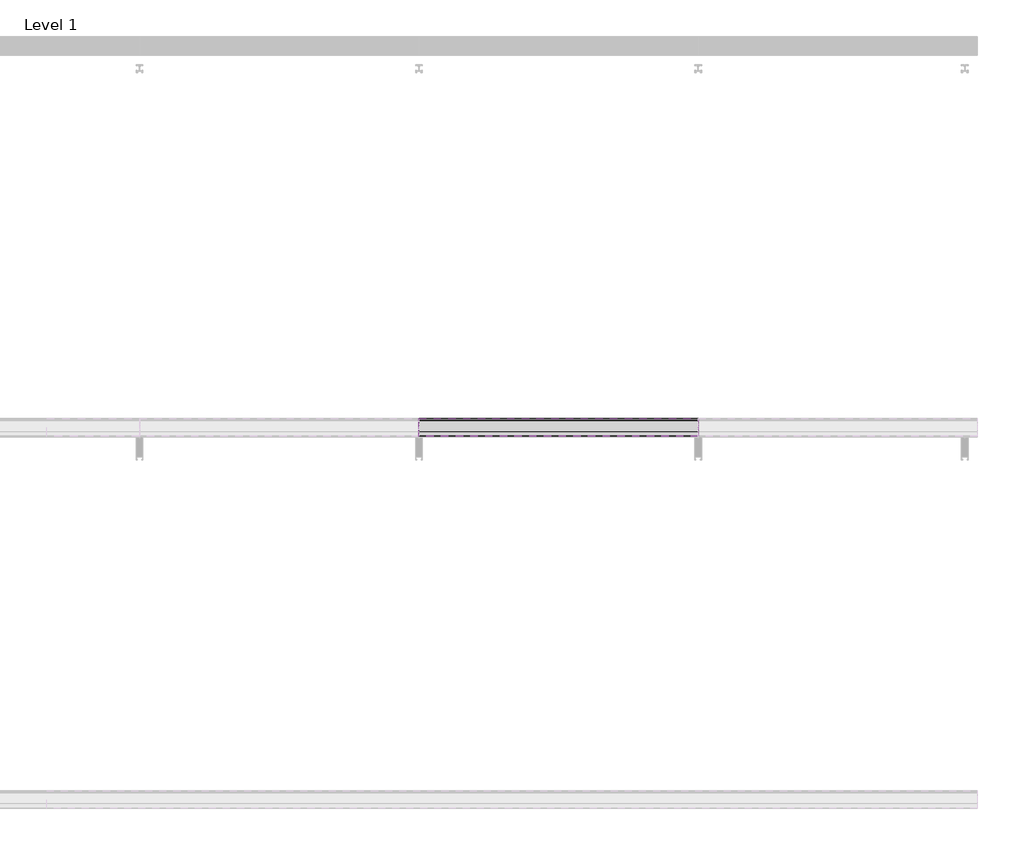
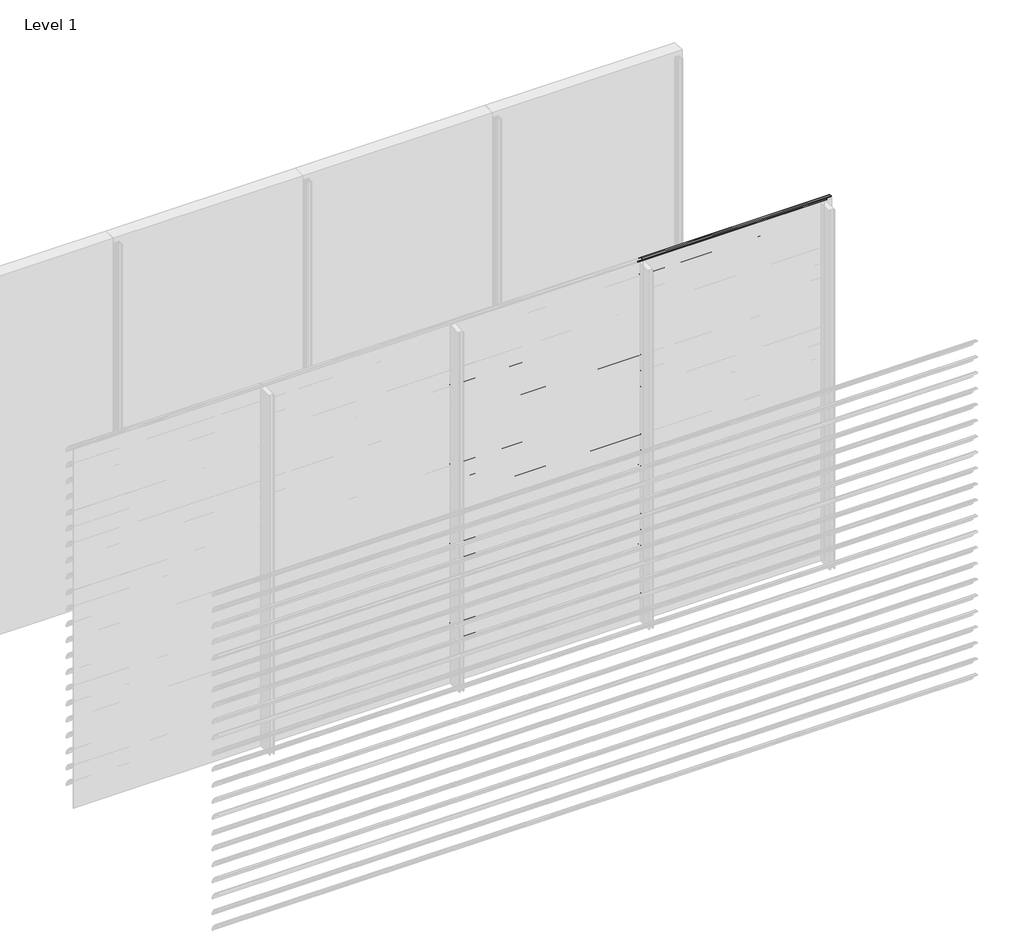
# One storey, part 12 of 57: 20 proxies.
"""IFC4 building model written with IfcOpenShell, lengths in millimetres."""

from ifc_helpers import new_model, si_unit, point, frame, frame_2d, origin, place, context, project, spatial, polyline, circle_curve, trimmed, segment, composite_curve, outline, extrude, element, save

model = new_model("IFC4")

# Units and contexts
model_context = context("Model", 3, world=origin())
ifc_project = project(units=[si_unit("LENGTHUNIT", "METRE", prefix="MILLI")], contexts=[model_context])

# Site, building, storey
site = spatial("IfcSite", under=ifc_project)
building = spatial("IfcBuilding", under=site)
storey = spatial("IfcBuildingStorey", under=building, Name="Level 1", Elevation=0.0)

# Proxies
placement = place(None, origin())
element("IfcBuildingElementProxy", 1, Name="Wall Sweeps", at=placement, inside=storey, context=model_context, shape_type="SweptSolid", body=[
    extrude(outline(composite_curve([segment(trimmed(circle_curve(frame_2d((-47993.7822526, 2484.4913792)), 4.2177474), [point((-47989.6985606, 2485.5462976))], [point((-47993.7822526, 2488.7091266))], False, "CARTESIAN"), True, "CONTINUOUS"), segment(trimmed(circle_curve(frame_2d((-48018.7150834, 2386.2536312)), 105.4456002), [point((-47993.7822526, 2488.7091266))], [point((-47971.7914298, 2480.6832099))], False, "CARTESIAN"), True, "CONTINUOUS"), segment(trimmed(circle_curve(frame_2d((-48061.7199745, 2332.0352476)), 173.7335887), [point((-47971.7914298, 2480.6832099))], [point((-47913.0720121, 2421.9637922))], False, "CARTESIAN"), True, "CONTINUOUS"), segment(trimmed(circle_curve(frame_2d((-48004.9297178, 2370.1860314)), 105.4456002), [point((-47913.0720121, 2421.9637922))], [point((-47903.6249616, 2399.4455765))], False, "CARTESIAN"), True, "CONTINUOUS"), segment(trimmed(circle_curve(frame_2d((-47907.809737, 2398.3307305)), 4.3307305), [point((-47903.6249616, 2399.4455765))], [point((-47909.0769196, 2394.189538))], False, "CARTESIAN"), True, "CONTINUOUS"), segment(polyline([(-47909.0769196, 2394.189538), (-47934.7401984, 2418.9722783)]), True, "CONTINUOUS"), segment(trimmed(circle_curve(frame_2d((-47931.3879574, 2421.2977626)), 4.079877), [point((-47934.7401984, 2418.9722783))], [point((-47930.7310597, 2425.3244091))], False, "CARTESIAN"), True, "CONTINUOUS"), segment(trimmed(circle_curve(frame_2d((-48014.6665585, 2403.2544323)), 86.7885467), [point((-47930.7310597, 2425.3244091))], [point((-47942.3028351, 2451.1683485))], True, "CARTESIAN"), True, "CONTINUOUS"), segment(polyline([(-47942.3028351, 2451.1683485), (-47940.7230099, 2453.9046861)]), True, "CONTINUOUS"), segment(trimmed(circle_curve(frame_2d((-48061.7199745, 2332.0352476)), 171.7335887), [point((-47940.7230099, 2453.9046861))], [point((-47972.7555872, 2478.9289618))], True, "CARTESIAN"), True, "CONTINUOUS"), segment(trimmed(circle_curve(frame_2d((-48018.7150834, 2386.2536312)), 103.4456002), [point((-47972.7555872, 2478.9289618))], [point((-47989.6985606, 2485.5462976))], True, "CARTESIAN"), True, "CONTINUOUS")], self_intersect=False)), frame((3000.0, 0.0, 0.0), z_axis=(1.0, 0.0, 0.0), x_axis=(0.0, 1.0, 0.0)), (0.0, 0.0, 1.0), 1500.0),
])
element("IfcBuildingElementProxy", 2, Name="Wall Sweeps", at=placement, inside=storey, context=model_context, shape_type="SweptSolid", body=[
    extrude(outline(composite_curve([segment(trimmed(circle_curve(frame_2d((-47993.7822526, 2351.4913792)), 4.2177474), [point((-47989.6985606, 2352.5462976))], [point((-47993.7822526, 2355.7091266))], False, "CARTESIAN"), True, "CONTINUOUS"), segment(trimmed(circle_curve(frame_2d((-48018.7150834, 2253.2536312)), 105.4456002), [point((-47993.7822526, 2355.7091266))], [point((-47971.7914298, 2347.6832099))], False, "CARTESIAN"), True, "CONTINUOUS"), segment(trimmed(circle_curve(frame_2d((-48061.7199745, 2199.0352476)), 173.7335887), [point((-47971.7914298, 2347.6832099))], [point((-47913.0720121, 2288.9637922))], False, "CARTESIAN"), True, "CONTINUOUS"), segment(trimmed(circle_curve(frame_2d((-48004.9297178, 2237.1860314)), 105.4456002), [point((-47913.0720121, 2288.9637922))], [point((-47903.6249616, 2266.4455765))], False, "CARTESIAN"), True, "CONTINUOUS"), segment(trimmed(circle_curve(frame_2d((-47907.809737, 2265.3307305)), 4.3307305), [point((-47903.6249616, 2266.4455765))], [point((-47909.0769196, 2261.189538))], False, "CARTESIAN"), True, "CONTINUOUS"), segment(polyline([(-47909.0769196, 2261.189538), (-47934.7401984, 2285.9722783)]), True, "CONTINUOUS"), segment(trimmed(circle_curve(frame_2d((-47931.3879574, 2288.2977626)), 4.079877), [point((-47934.7401984, 2285.9722783))], [point((-47930.7310597, 2292.3244091))], False, "CARTESIAN"), True, "CONTINUOUS"), segment(trimmed(circle_curve(frame_2d((-48014.6665585, 2270.2544323)), 86.7885467), [point((-47930.7310597, 2292.3244091))], [point((-47942.3028351, 2318.1683485))], True, "CARTESIAN"), True, "CONTINUOUS"), segment(polyline([(-47942.3028351, 2318.1683485), (-47940.7230099, 2320.9046861)]), True, "CONTINUOUS"), segment(trimmed(circle_curve(frame_2d((-48061.7199745, 2199.0352476)), 171.7335887), [point((-47940.7230099, 2320.9046861))], [point((-47972.7555872, 2345.9289618))], True, "CARTESIAN"), True, "CONTINUOUS"), segment(trimmed(circle_curve(frame_2d((-48018.7150834, 2253.2536312)), 103.4456002), [point((-47972.7555872, 2345.9289618))], [point((-47989.6985606, 2352.5462976))], True, "CARTESIAN"), True, "CONTINUOUS")], self_intersect=False)), frame((3000.0, 0.0, 0.0), z_axis=(1.0, 0.0, 0.0), x_axis=(0.0, 1.0, 0.0)), (0.0, 0.0, 1.0), 1500.0),
])
element("IfcBuildingElementProxy", 3, Name="Wall Sweeps", at=placement, inside=storey, context=model_context, shape_type="SweptSolid", body=[
    extrude(outline(composite_curve([segment(trimmed(circle_curve(frame_2d((-47993.7822526, 2218.4913792)), 4.2177474), [point((-47989.6985606, 2219.5462976))], [point((-47993.7822526, 2222.7091266))], False, "CARTESIAN"), True, "CONTINUOUS"), segment(trimmed(circle_curve(frame_2d((-48018.7150834, 2120.2536312)), 105.4456002), [point((-47993.7822526, 2222.7091266))], [point((-47971.7914298, 2214.6832099))], False, "CARTESIAN"), True, "CONTINUOUS"), segment(trimmed(circle_curve(frame_2d((-48061.7199745, 2066.0352476)), 173.7335887), [point((-47971.7914298, 2214.6832099))], [point((-47913.0720121, 2155.9637922))], False, "CARTESIAN"), True, "CONTINUOUS"), segment(trimmed(circle_curve(frame_2d((-48004.9297178, 2104.1860314)), 105.4456002), [point((-47913.0720121, 2155.9637922))], [point((-47903.6249616, 2133.4455765))], False, "CARTESIAN"), True, "CONTINUOUS"), segment(trimmed(circle_curve(frame_2d((-47907.809737, 2132.3307305)), 4.3307305), [point((-47903.6249616, 2133.4455765))], [point((-47909.0769196, 2128.189538))], False, "CARTESIAN"), True, "CONTINUOUS"), segment(polyline([(-47909.0769196, 2128.189538), (-47934.7401984, 2152.9722783)]), True, "CONTINUOUS"), segment(trimmed(circle_curve(frame_2d((-47931.3879574, 2155.2977626)), 4.079877), [point((-47934.7401984, 2152.9722783))], [point((-47930.7310597, 2159.3244091))], False, "CARTESIAN"), True, "CONTINUOUS"), segment(trimmed(circle_curve(frame_2d((-48014.6665585, 2137.2544323)), 86.7885467), [point((-47930.7310597, 2159.3244091))], [point((-47942.3028351, 2185.1683485))], True, "CARTESIAN"), True, "CONTINUOUS"), segment(polyline([(-47942.3028351, 2185.1683485), (-47940.7230099, 2187.9046861)]), True, "CONTINUOUS"), segment(trimmed(circle_curve(frame_2d((-48061.7199745, 2066.0352476)), 171.7335887), [point((-47940.7230099, 2187.9046861))], [point((-47972.7555872, 2212.9289618))], True, "CARTESIAN"), True, "CONTINUOUS"), segment(trimmed(circle_curve(frame_2d((-48018.7150834, 2120.2536312)), 103.4456002), [point((-47972.7555872, 2212.9289618))], [point((-47989.6985606, 2219.5462976))], True, "CARTESIAN"), True, "CONTINUOUS")], self_intersect=False)), frame((3000.0, 0.0, 0.0), z_axis=(1.0, 0.0, 0.0), x_axis=(0.0, 1.0, 0.0)), (0.0, 0.0, 1.0), 1500.0),
])
element("IfcBuildingElementProxy", 4, Name="Wall Sweeps", at=placement, inside=storey, context=model_context, shape_type="SweptSolid", body=[
    extrude(outline(composite_curve([segment(trimmed(circle_curve(frame_2d((-47993.7822526, 2085.4913792)), 4.2177474), [point((-47989.6985606, 2086.5462976))], [point((-47993.7822526, 2089.7091266))], False, "CARTESIAN"), True, "CONTINUOUS"), segment(trimmed(circle_curve(frame_2d((-48018.7150834, 1987.2536312)), 105.4456002), [point((-47993.7822526, 2089.7091266))], [point((-47971.7914298, 2081.6832099))], False, "CARTESIAN"), True, "CONTINUOUS"), segment(trimmed(circle_curve(frame_2d((-48061.7199745, 1933.0352476)), 173.7335887), [point((-47971.7914298, 2081.6832099))], [point((-47913.0720121, 2022.9637922))], False, "CARTESIAN"), True, "CONTINUOUS"), segment(trimmed(circle_curve(frame_2d((-48004.9297178, 1971.1860314)), 105.4456002), [point((-47913.0720121, 2022.9637922))], [point((-47903.6249616, 2000.4455765))], False, "CARTESIAN"), True, "CONTINUOUS"), segment(trimmed(circle_curve(frame_2d((-47907.809737, 1999.3307305)), 4.3307305), [point((-47903.6249616, 2000.4455765))], [point((-47909.0769196, 1995.189538))], False, "CARTESIAN"), True, "CONTINUOUS"), segment(polyline([(-47909.0769196, 1995.189538), (-47934.7401984, 2019.9722783)]), True, "CONTINUOUS"), segment(trimmed(circle_curve(frame_2d((-47931.3879574, 2022.2977626)), 4.079877), [point((-47934.7401984, 2019.9722783))], [point((-47930.7310597, 2026.3244091))], False, "CARTESIAN"), True, "CONTINUOUS"), segment(trimmed(circle_curve(frame_2d((-48014.6665585, 2004.2544323)), 86.7885467), [point((-47930.7310597, 2026.3244091))], [point((-47942.3028351, 2052.1683485))], True, "CARTESIAN"), True, "CONTINUOUS"), segment(polyline([(-47942.3028351, 2052.1683485), (-47940.7230099, 2054.9046861)]), True, "CONTINUOUS"), segment(trimmed(circle_curve(frame_2d((-48061.7199745, 1933.0352476)), 171.7335887), [point((-47940.7230099, 2054.9046861))], [point((-47972.7555872, 2079.9289618))], True, "CARTESIAN"), True, "CONTINUOUS"), segment(trimmed(circle_curve(frame_2d((-48018.7150834, 1987.2536312)), 103.4456002), [point((-47972.7555872, 2079.9289618))], [point((-47989.6985606, 2086.5462976))], True, "CARTESIAN"), True, "CONTINUOUS")], self_intersect=False)), frame((3000.0, 0.0, 0.0), z_axis=(1.0, 0.0, 0.0), x_axis=(0.0, 1.0, 0.0)), (0.0, 0.0, 1.0), 1500.0),
])
element("IfcBuildingElementProxy", 5, Name="Wall Sweeps", at=placement, inside=storey, context=model_context, shape_type="SweptSolid", body=[
    extrude(outline(composite_curve([segment(trimmed(circle_curve(frame_2d((-47993.7822526, 1952.4913792)), 4.2177474), [point((-47989.6985606, 1953.5462976))], [point((-47993.7822526, 1956.7091266))], False, "CARTESIAN"), True, "CONTINUOUS"), segment(trimmed(circle_curve(frame_2d((-48018.7150834, 1854.2536312)), 105.4456002), [point((-47993.7822526, 1956.7091266))], [point((-47971.7914298, 1948.6832099))], False, "CARTESIAN"), True, "CONTINUOUS"), segment(trimmed(circle_curve(frame_2d((-48061.7199745, 1800.0352476)), 173.7335887), [point((-47971.7914298, 1948.6832099))], [point((-47913.0720121, 1889.9637922))], False, "CARTESIAN"), True, "CONTINUOUS"), segment(trimmed(circle_curve(frame_2d((-48004.9297178, 1838.1860314)), 105.4456002), [point((-47913.0720121, 1889.9637922))], [point((-47903.6249616, 1867.4455765))], False, "CARTESIAN"), True, "CONTINUOUS"), segment(trimmed(circle_curve(frame_2d((-47907.809737, 1866.3307305)), 4.3307305), [point((-47903.6249616, 1867.4455765))], [point((-47909.0769196, 1862.189538))], False, "CARTESIAN"), True, "CONTINUOUS"), segment(polyline([(-47909.0769196, 1862.189538), (-47934.7401984, 1886.9722783)]), True, "CONTINUOUS"), segment(trimmed(circle_curve(frame_2d((-47931.3879574, 1889.2977626)), 4.079877), [point((-47934.7401984, 1886.9722783))], [point((-47930.7310597, 1893.3244091))], False, "CARTESIAN"), True, "CONTINUOUS"), segment(trimmed(circle_curve(frame_2d((-48014.6665585, 1871.2544323)), 86.7885467), [point((-47930.7310597, 1893.3244091))], [point((-47942.3028351, 1919.1683485))], True, "CARTESIAN"), True, "CONTINUOUS"), segment(polyline([(-47942.3028351, 1919.1683485), (-47940.7230099, 1921.9046861)]), True, "CONTINUOUS"), segment(trimmed(circle_curve(frame_2d((-48061.7199745, 1800.0352476)), 171.7335887), [point((-47940.7230099, 1921.9046861))], [point((-47972.7555872, 1946.9289618))], True, "CARTESIAN"), True, "CONTINUOUS"), segment(trimmed(circle_curve(frame_2d((-48018.7150834, 1854.2536312)), 103.4456002), [point((-47972.7555872, 1946.9289618))], [point((-47989.6985606, 1953.5462976))], True, "CARTESIAN"), True, "CONTINUOUS")], self_intersect=False)), frame((3000.0, 0.0, 0.0), z_axis=(1.0, 0.0, 0.0), x_axis=(0.0, 1.0, 0.0)), (0.0, 0.0, 1.0), 1500.0),
])
element("IfcBuildingElementProxy", 6, Name="Wall Sweeps", at=placement, inside=storey, context=model_context, shape_type="SweptSolid", body=[
    extrude(outline(composite_curve([segment(trimmed(circle_curve(frame_2d((-47993.7822526, 1819.4913792)), 4.2177474), [point((-47989.6985606, 1820.5462976))], [point((-47993.7822526, 1823.7091266))], False, "CARTESIAN"), True, "CONTINUOUS"), segment(trimmed(circle_curve(frame_2d((-48018.7150834, 1721.2536312)), 105.4456002), [point((-47993.7822526, 1823.7091266))], [point((-47971.7914298, 1815.6832099))], False, "CARTESIAN"), True, "CONTINUOUS"), segment(trimmed(circle_curve(frame_2d((-48061.7199745, 1667.0352476)), 173.7335887), [point((-47971.7914298, 1815.6832099))], [point((-47913.0720121, 1756.9637922))], False, "CARTESIAN"), True, "CONTINUOUS"), segment(trimmed(circle_curve(frame_2d((-48004.9297178, 1705.1860314)), 105.4456002), [point((-47913.0720121, 1756.9637922))], [point((-47903.6249616, 1734.4455765))], False, "CARTESIAN"), True, "CONTINUOUS"), segment(trimmed(circle_curve(frame_2d((-47907.809737, 1733.3307305)), 4.3307305), [point((-47903.6249616, 1734.4455765))], [point((-47909.0769196, 1729.189538))], False, "CARTESIAN"), True, "CONTINUOUS"), segment(polyline([(-47909.0769196, 1729.189538), (-47934.7401984, 1753.9722783)]), True, "CONTINUOUS"), segment(trimmed(circle_curve(frame_2d((-47931.3879574, 1756.2977626)), 4.079877), [point((-47934.7401984, 1753.9722783))], [point((-47930.7310597, 1760.3244091))], False, "CARTESIAN"), True, "CONTINUOUS"), segment(trimmed(circle_curve(frame_2d((-48014.6665585, 1738.2544323)), 86.7885467), [point((-47930.7310597, 1760.3244091))], [point((-47942.3028351, 1786.1683485))], True, "CARTESIAN"), True, "CONTINUOUS"), segment(polyline([(-47942.3028351, 1786.1683485), (-47940.7230099, 1788.9046861)]), True, "CONTINUOUS"), segment(trimmed(circle_curve(frame_2d((-48061.7199745, 1667.0352476)), 171.7335887), [point((-47940.7230099, 1788.9046861))], [point((-47972.7555872, 1813.9289618))], True, "CARTESIAN"), True, "CONTINUOUS"), segment(trimmed(circle_curve(frame_2d((-48018.7150834, 1721.2536312)), 103.4456002), [point((-47972.7555872, 1813.9289618))], [point((-47989.6985606, 1820.5462976))], True, "CARTESIAN"), True, "CONTINUOUS")], self_intersect=False)), frame((3000.0, 0.0, 0.0), z_axis=(1.0, 0.0, 0.0), x_axis=(0.0, 1.0, 0.0)), (0.0, 0.0, 1.0), 1500.0),
])
element("IfcBuildingElementProxy", 7, Name="Wall Sweeps", at=placement, inside=storey, context=model_context, shape_type="SweptSolid", body=[
    extrude(outline(composite_curve([segment(trimmed(circle_curve(frame_2d((-47993.7822526, 1686.4913792)), 4.2177474), [point((-47989.6985606, 1687.5462976))], [point((-47993.7822526, 1690.7091266))], False, "CARTESIAN"), True, "CONTINUOUS"), segment(trimmed(circle_curve(frame_2d((-48018.7150834, 1588.2536312)), 105.4456002), [point((-47993.7822526, 1690.7091266))], [point((-47971.7914298, 1682.6832099))], False, "CARTESIAN"), True, "CONTINUOUS"), segment(trimmed(circle_curve(frame_2d((-48061.7199745, 1534.0352476)), 173.7335887), [point((-47971.7914298, 1682.6832099))], [point((-47913.0720121, 1623.9637922))], False, "CARTESIAN"), True, "CONTINUOUS"), segment(trimmed(circle_curve(frame_2d((-48004.9297178, 1572.1860314)), 105.4456002), [point((-47913.0720121, 1623.9637922))], [point((-47903.6249616, 1601.4455765))], False, "CARTESIAN"), True, "CONTINUOUS"), segment(trimmed(circle_curve(frame_2d((-47907.809737, 1600.3307305)), 4.3307305), [point((-47903.6249616, 1601.4455765))], [point((-47909.0769196, 1596.189538))], False, "CARTESIAN"), True, "CONTINUOUS"), segment(polyline([(-47909.0769196, 1596.189538), (-47934.7401984, 1620.9722783)]), True, "CONTINUOUS"), segment(trimmed(circle_curve(frame_2d((-47931.3879574, 1623.2977626)), 4.079877), [point((-47934.7401984, 1620.9722783))], [point((-47930.7310597, 1627.3244091))], False, "CARTESIAN"), True, "CONTINUOUS"), segment(trimmed(circle_curve(frame_2d((-48014.6665585, 1605.2544323)), 86.7885467), [point((-47930.7310597, 1627.3244091))], [point((-47942.3028351, 1653.1683485))], True, "CARTESIAN"), True, "CONTINUOUS"), segment(polyline([(-47942.3028351, 1653.1683485), (-47940.7230099, 1655.9046861)]), True, "CONTINUOUS"), segment(trimmed(circle_curve(frame_2d((-48061.7199745, 1534.0352476)), 171.7335887), [point((-47940.7230099, 1655.9046861))], [point((-47972.7555872, 1680.9289618))], True, "CARTESIAN"), True, "CONTINUOUS"), segment(trimmed(circle_curve(frame_2d((-48018.7150834, 1588.2536312)), 103.4456002), [point((-47972.7555872, 1680.9289618))], [point((-47989.6985606, 1687.5462976))], True, "CARTESIAN"), True, "CONTINUOUS")], self_intersect=False)), frame((3000.0, 0.0, 0.0), z_axis=(1.0, 0.0, 0.0), x_axis=(0.0, 1.0, 0.0)), (0.0, 0.0, 1.0), 1500.0),
])
element("IfcBuildingElementProxy", 8, Name="Wall Sweeps", at=placement, inside=storey, context=model_context, shape_type="SweptSolid", body=[
    extrude(outline(composite_curve([segment(trimmed(circle_curve(frame_2d((-47993.7822526, 1553.4913792)), 4.2177474), [point((-47989.6985606, 1554.5462976))], [point((-47993.7822526, 1557.7091266))], False, "CARTESIAN"), True, "CONTINUOUS"), segment(trimmed(circle_curve(frame_2d((-48018.7150834, 1455.2536312)), 105.4456002), [point((-47993.7822526, 1557.7091266))], [point((-47971.7914298, 1549.6832099))], False, "CARTESIAN"), True, "CONTINUOUS"), segment(trimmed(circle_curve(frame_2d((-48061.7199745, 1401.0352476)), 173.7335887), [point((-47971.7914298, 1549.6832099))], [point((-47913.0720121, 1490.9637922))], False, "CARTESIAN"), True, "CONTINUOUS"), segment(trimmed(circle_curve(frame_2d((-48004.9297178, 1439.1860314)), 105.4456002), [point((-47913.0720121, 1490.9637922))], [point((-47903.6249616, 1468.4455765))], False, "CARTESIAN"), True, "CONTINUOUS"), segment(trimmed(circle_curve(frame_2d((-47907.809737, 1467.3307305)), 4.3307305), [point((-47903.6249616, 1468.4455765))], [point((-47909.0769196, 1463.189538))], False, "CARTESIAN"), True, "CONTINUOUS"), segment(polyline([(-47909.0769196, 1463.189538), (-47934.7401984, 1487.9722783)]), True, "CONTINUOUS"), segment(trimmed(circle_curve(frame_2d((-47931.3879574, 1490.2977626)), 4.079877), [point((-47934.7401984, 1487.9722783))], [point((-47930.7310597, 1494.3244091))], False, "CARTESIAN"), True, "CONTINUOUS"), segment(trimmed(circle_curve(frame_2d((-48014.6665585, 1472.2544323)), 86.7885467), [point((-47930.7310597, 1494.3244091))], [point((-47942.3028351, 1520.1683485))], True, "CARTESIAN"), True, "CONTINUOUS"), segment(polyline([(-47942.3028351, 1520.1683485), (-47940.7230099, 1522.9046861)]), True, "CONTINUOUS"), segment(trimmed(circle_curve(frame_2d((-48061.7199745, 1401.0352476)), 171.7335887), [point((-47940.7230099, 1522.9046861))], [point((-47972.7555872, 1547.9289618))], True, "CARTESIAN"), True, "CONTINUOUS"), segment(trimmed(circle_curve(frame_2d((-48018.7150834, 1455.2536312)), 103.4456002), [point((-47972.7555872, 1547.9289618))], [point((-47989.6985606, 1554.5462976))], True, "CARTESIAN"), True, "CONTINUOUS")], self_intersect=False)), frame((3000.0, 0.0, 0.0), z_axis=(1.0, 0.0, 0.0), x_axis=(0.0, 1.0, 0.0)), (0.0, 0.0, 1.0), 1500.0),
])
element("IfcBuildingElementProxy", 9, Name="Wall Sweeps", at=placement, inside=storey, context=model_context, shape_type="SweptSolid", body=[
    extrude(outline(composite_curve([segment(trimmed(circle_curve(frame_2d((-47993.7822526, 1420.4913792)), 4.2177474), [point((-47989.6985606, 1421.5462976))], [point((-47993.7822526, 1424.7091266))], False, "CARTESIAN"), True, "CONTINUOUS"), segment(trimmed(circle_curve(frame_2d((-48018.7150834, 1322.2536312)), 105.4456002), [point((-47993.7822526, 1424.7091266))], [point((-47971.7914298, 1416.6832099))], False, "CARTESIAN"), True, "CONTINUOUS"), segment(trimmed(circle_curve(frame_2d((-48061.7199745, 1268.0352476)), 173.7335887), [point((-47971.7914298, 1416.6832099))], [point((-47913.0720121, 1357.9637922))], False, "CARTESIAN"), True, "CONTINUOUS"), segment(trimmed(circle_curve(frame_2d((-48004.9297178, 1306.1860314)), 105.4456002), [point((-47913.0720121, 1357.9637922))], [point((-47903.6249616, 1335.4455765))], False, "CARTESIAN"), True, "CONTINUOUS"), segment(trimmed(circle_curve(frame_2d((-47907.809737, 1334.3307305)), 4.3307305), [point((-47903.6249616, 1335.4455765))], [point((-47909.0769196, 1330.189538))], False, "CARTESIAN"), True, "CONTINUOUS"), segment(polyline([(-47909.0769196, 1330.189538), (-47934.7401984, 1354.9722783)]), True, "CONTINUOUS"), segment(trimmed(circle_curve(frame_2d((-47931.3879574, 1357.2977626)), 4.079877), [point((-47934.7401984, 1354.9722783))], [point((-47930.7310597, 1361.3244091))], False, "CARTESIAN"), True, "CONTINUOUS"), segment(trimmed(circle_curve(frame_2d((-48014.6665585, 1339.2544323)), 86.7885467), [point((-47930.7310597, 1361.3244091))], [point((-47942.3028351, 1387.1683485))], True, "CARTESIAN"), True, "CONTINUOUS"), segment(polyline([(-47942.3028351, 1387.1683485), (-47940.7230099, 1389.9046861)]), True, "CONTINUOUS"), segment(trimmed(circle_curve(frame_2d((-48061.7199745, 1268.0352476)), 171.7335887), [point((-47940.7230099, 1389.9046861))], [point((-47972.7555872, 1414.9289618))], True, "CARTESIAN"), True, "CONTINUOUS"), segment(trimmed(circle_curve(frame_2d((-48018.7150834, 1322.2536312)), 103.4456002), [point((-47972.7555872, 1414.9289618))], [point((-47989.6985606, 1421.5462976))], True, "CARTESIAN"), True, "CONTINUOUS")], self_intersect=False)), frame((3000.0, 0.0, 0.0), z_axis=(1.0, 0.0, 0.0), x_axis=(0.0, 1.0, 0.0)), (0.0, 0.0, 1.0), 1500.0),
])
element("IfcBuildingElementProxy", 10, Name="Wall Sweeps", at=placement, inside=storey, context=model_context, shape_type="SweptSolid", body=[
    extrude(outline(composite_curve([segment(trimmed(circle_curve(frame_2d((-47993.7822526, 1287.4913792)), 4.2177474), [point((-47989.6985606, 1288.5462976))], [point((-47993.7822526, 1291.7091266))], False, "CARTESIAN"), True, "CONTINUOUS"), segment(trimmed(circle_curve(frame_2d((-48018.7150834, 1189.2536312)), 105.4456002), [point((-47993.7822526, 1291.7091266))], [point((-47971.7914298, 1283.6832099))], False, "CARTESIAN"), True, "CONTINUOUS"), segment(trimmed(circle_curve(frame_2d((-48061.7199745, 1135.0352476)), 173.7335887), [point((-47971.7914298, 1283.6832099))], [point((-47913.0720121, 1224.9637922))], False, "CARTESIAN"), True, "CONTINUOUS"), segment(trimmed(circle_curve(frame_2d((-48004.9297178, 1173.1860314)), 105.4456002), [point((-47913.0720121, 1224.9637922))], [point((-47903.6249616, 1202.4455765))], False, "CARTESIAN"), True, "CONTINUOUS"), segment(trimmed(circle_curve(frame_2d((-47907.809737, 1201.3307305)), 4.3307305), [point((-47903.6249616, 1202.4455765))], [point((-47909.0769196, 1197.189538))], False, "CARTESIAN"), True, "CONTINUOUS"), segment(polyline([(-47909.0769196, 1197.189538), (-47934.7401984, 1221.9722783)]), True, "CONTINUOUS"), segment(trimmed(circle_curve(frame_2d((-47931.3879574, 1224.2977626)), 4.079877), [point((-47934.7401984, 1221.9722783))], [point((-47930.7310597, 1228.3244091))], False, "CARTESIAN"), True, "CONTINUOUS"), segment(trimmed(circle_curve(frame_2d((-48014.6665585, 1206.2544323)), 86.7885467), [point((-47930.7310597, 1228.3244091))], [point((-47942.3028351, 1254.1683485))], True, "CARTESIAN"), True, "CONTINUOUS"), segment(polyline([(-47942.3028351, 1254.1683485), (-47940.7230099, 1256.9046861)]), True, "CONTINUOUS"), segment(trimmed(circle_curve(frame_2d((-48061.7199745, 1135.0352476)), 171.7335887), [point((-47940.7230099, 1256.9046861))], [point((-47972.7555872, 1281.9289618))], True, "CARTESIAN"), True, "CONTINUOUS"), segment(trimmed(circle_curve(frame_2d((-48018.7150834, 1189.2536312)), 103.4456002), [point((-47972.7555872, 1281.9289618))], [point((-47989.6985606, 1288.5462976))], True, "CARTESIAN"), True, "CONTINUOUS")], self_intersect=False)), frame((3000.0, 0.0, 0.0), z_axis=(1.0, 0.0, 0.0), x_axis=(0.0, 1.0, 0.0)), (0.0, 0.0, 1.0), 1500.0),
])
element("IfcBuildingElementProxy", 11, Name="Wall Sweeps", at=placement, inside=storey, context=model_context, shape_type="SweptSolid", body=[
    extrude(outline(composite_curve([segment(trimmed(circle_curve(frame_2d((-47993.7822526, 1154.4913792)), 4.2177474), [point((-47989.6985606, 1155.5462976))], [point((-47993.7822526, 1158.7091266))], False, "CARTESIAN"), True, "CONTINUOUS"), segment(trimmed(circle_curve(frame_2d((-48018.7150834, 1056.2536312)), 105.4456002), [point((-47993.7822526, 1158.7091266))], [point((-47971.7914298, 1150.6832099))], False, "CARTESIAN"), True, "CONTINUOUS"), segment(trimmed(circle_curve(frame_2d((-48061.7199745, 1002.0352476)), 173.7335887), [point((-47971.7914298, 1150.6832099))], [point((-47913.0720121, 1091.9637922))], False, "CARTESIAN"), True, "CONTINUOUS"), segment(trimmed(circle_curve(frame_2d((-48004.9297178, 1040.1860314)), 105.4456002), [point((-47913.0720121, 1091.9637922))], [point((-47903.6249616, 1069.4455765))], False, "CARTESIAN"), True, "CONTINUOUS"), segment(trimmed(circle_curve(frame_2d((-47907.809737, 1068.3307305)), 4.3307305), [point((-47903.6249616, 1069.4455765))], [point((-47909.0769196, 1064.189538))], False, "CARTESIAN"), True, "CONTINUOUS"), segment(polyline([(-47909.0769196, 1064.189538), (-47934.7401984, 1088.9722783)]), True, "CONTINUOUS"), segment(trimmed(circle_curve(frame_2d((-47931.3879574, 1091.2977626)), 4.079877), [point((-47934.7401984, 1088.9722783))], [point((-47930.7310597, 1095.3244091))], False, "CARTESIAN"), True, "CONTINUOUS"), segment(trimmed(circle_curve(frame_2d((-48014.6665585, 1073.2544323)), 86.7885467), [point((-47930.7310597, 1095.3244091))], [point((-47942.3028351, 1121.1683485))], True, "CARTESIAN"), True, "CONTINUOUS"), segment(polyline([(-47942.3028351, 1121.1683485), (-47940.7230099, 1123.9046861)]), True, "CONTINUOUS"), segment(trimmed(circle_curve(frame_2d((-48061.7199745, 1002.0352476)), 171.7335887), [point((-47940.7230099, 1123.9046861))], [point((-47972.7555872, 1148.9289618))], True, "CARTESIAN"), True, "CONTINUOUS"), segment(trimmed(circle_curve(frame_2d((-48018.7150834, 1056.2536312)), 103.4456002), [point((-47972.7555872, 1148.9289618))], [point((-47989.6985606, 1155.5462976))], True, "CARTESIAN"), True, "CONTINUOUS")], self_intersect=False)), frame((3000.0, 0.0, 0.0), z_axis=(1.0, 0.0, 0.0), x_axis=(0.0, 1.0, 0.0)), (0.0, 0.0, 1.0), 1500.0),
])
element("IfcBuildingElementProxy", 12, Name="Wall Sweeps", at=placement, inside=storey, context=model_context, shape_type="SweptSolid", body=[
    extrude(outline(composite_curve([segment(trimmed(circle_curve(frame_2d((-47993.7822526, 1021.4913792)), 4.2177474), [point((-47989.6985606, 1022.5462976))], [point((-47993.7822526, 1025.7091266))], False, "CARTESIAN"), True, "CONTINUOUS"), segment(trimmed(circle_curve(frame_2d((-48018.7150834, 923.2536312)), 105.4456002), [point((-47993.7822526, 1025.7091266))], [point((-47971.7914298, 1017.6832099))], False, "CARTESIAN"), True, "CONTINUOUS"), segment(trimmed(circle_curve(frame_2d((-48061.7199745, 869.0352476)), 173.7335887), [point((-47971.7914298, 1017.6832099))], [point((-47913.0720121, 958.9637922))], False, "CARTESIAN"), True, "CONTINUOUS"), segment(trimmed(circle_curve(frame_2d((-48004.9297178, 907.1860314)), 105.4456002), [point((-47913.0720121, 958.9637922))], [point((-47903.6249616, 936.4455765))], False, "CARTESIAN"), True, "CONTINUOUS"), segment(trimmed(circle_curve(frame_2d((-47907.809737, 935.3307305)), 4.3307305), [point((-47903.6249616, 936.4455765))], [point((-47909.0769196, 931.189538))], False, "CARTESIAN"), True, "CONTINUOUS"), segment(polyline([(-47909.0769196, 931.189538), (-47934.7401984, 955.9722783)]), True, "CONTINUOUS"), segment(trimmed(circle_curve(frame_2d((-47931.3879574, 958.2977626)), 4.079877), [point((-47934.7401984, 955.9722783))], [point((-47930.7310597, 962.3244091))], False, "CARTESIAN"), True, "CONTINUOUS"), segment(trimmed(circle_curve(frame_2d((-48014.6665585, 940.2544323)), 86.7885467), [point((-47930.7310597, 962.3244091))], [point((-47942.3028351, 988.1683485))], True, "CARTESIAN"), True, "CONTINUOUS"), segment(polyline([(-47942.3028351, 988.1683485), (-47940.7230099, 990.9046861)]), True, "CONTINUOUS"), segment(trimmed(circle_curve(frame_2d((-48061.7199745, 869.0352476)), 171.7335887), [point((-47940.7230099, 990.9046861))], [point((-47972.7555872, 1015.9289618))], True, "CARTESIAN"), True, "CONTINUOUS"), segment(trimmed(circle_curve(frame_2d((-48018.7150834, 923.2536312)), 103.4456002), [point((-47972.7555872, 1015.9289618))], [point((-47989.6985606, 1022.5462976))], True, "CARTESIAN"), True, "CONTINUOUS")], self_intersect=False)), frame((3000.0, 0.0, 0.0), z_axis=(1.0, 0.0, 0.0), x_axis=(0.0, 1.0, 0.0)), (0.0, 0.0, 1.0), 1500.0),
])
element("IfcBuildingElementProxy", 13, Name="Wall Sweeps", at=placement, inside=storey, context=model_context, shape_type="SweptSolid", body=[
    extrude(outline(composite_curve([segment(trimmed(circle_curve(frame_2d((-47993.7822526, 888.4913792)), 4.2177474), [point((-47989.6985606, 889.5462976))], [point((-47993.7822526, 892.7091266))], False, "CARTESIAN"), True, "CONTINUOUS"), segment(trimmed(circle_curve(frame_2d((-48018.7150834, 790.2536312)), 105.4456002), [point((-47993.7822526, 892.7091266))], [point((-47971.7914298, 884.6832099))], False, "CARTESIAN"), True, "CONTINUOUS"), segment(trimmed(circle_curve(frame_2d((-48061.7199745, 736.0352476)), 173.7335887), [point((-47971.7914298, 884.6832099))], [point((-47913.0720121, 825.9637922))], False, "CARTESIAN"), True, "CONTINUOUS"), segment(trimmed(circle_curve(frame_2d((-48004.9297178, 774.1860314)), 105.4456002), [point((-47913.0720121, 825.9637922))], [point((-47903.6249616, 803.4455765))], False, "CARTESIAN"), True, "CONTINUOUS"), segment(trimmed(circle_curve(frame_2d((-47907.809737, 802.3307305)), 4.3307305), [point((-47903.6249616, 803.4455765))], [point((-47909.0769196, 798.189538))], False, "CARTESIAN"), True, "CONTINUOUS"), segment(polyline([(-47909.0769196, 798.189538), (-47934.7401984, 822.9722783)]), True, "CONTINUOUS"), segment(trimmed(circle_curve(frame_2d((-47931.3879574, 825.2977626)), 4.079877), [point((-47934.7401984, 822.9722783))], [point((-47930.7310597, 829.3244091))], False, "CARTESIAN"), True, "CONTINUOUS"), segment(trimmed(circle_curve(frame_2d((-48014.6665585, 807.2544323)), 86.7885467), [point((-47930.7310597, 829.3244091))], [point((-47942.3028351, 855.1683485))], True, "CARTESIAN"), True, "CONTINUOUS"), segment(polyline([(-47942.3028351, 855.1683485), (-47940.7230099, 857.9046861)]), True, "CONTINUOUS"), segment(trimmed(circle_curve(frame_2d((-48061.7199745, 736.0352476)), 171.7335887), [point((-47940.7230099, 857.9046861))], [point((-47972.7555872, 882.9289618))], True, "CARTESIAN"), True, "CONTINUOUS"), segment(trimmed(circle_curve(frame_2d((-48018.7150834, 790.2536312)), 103.4456002), [point((-47972.7555872, 882.9289618))], [point((-47989.6985606, 889.5462976))], True, "CARTESIAN"), True, "CONTINUOUS")], self_intersect=False)), frame((3000.0, 0.0, 0.0), z_axis=(1.0, 0.0, 0.0), x_axis=(0.0, 1.0, 0.0)), (0.0, 0.0, 1.0), 1500.0),
])
element("IfcBuildingElementProxy", 14, Name="Wall Sweeps", at=placement, inside=storey, context=model_context, shape_type="SweptSolid", body=[
    extrude(outline(composite_curve([segment(trimmed(circle_curve(frame_2d((-47993.7822526, 755.4913792)), 4.2177474), [point((-47989.6985606, 756.5462976))], [point((-47993.7822526, 759.7091266))], False, "CARTESIAN"), True, "CONTINUOUS"), segment(trimmed(circle_curve(frame_2d((-48018.7150834, 657.2536312)), 105.4456002), [point((-47993.7822526, 759.7091266))], [point((-47971.7914298, 751.6832099))], False, "CARTESIAN"), True, "CONTINUOUS"), segment(trimmed(circle_curve(frame_2d((-48061.7199745, 603.0352476)), 173.7335887), [point((-47971.7914298, 751.6832099))], [point((-47913.0720121, 692.9637922))], False, "CARTESIAN"), True, "CONTINUOUS"), segment(trimmed(circle_curve(frame_2d((-48004.9297178, 641.1860314)), 105.4456002), [point((-47913.0720121, 692.9637922))], [point((-47903.6249616, 670.4455765))], False, "CARTESIAN"), True, "CONTINUOUS"), segment(trimmed(circle_curve(frame_2d((-47907.809737, 669.3307305)), 4.3307305), [point((-47903.6249616, 670.4455765))], [point((-47909.0769196, 665.189538))], False, "CARTESIAN"), True, "CONTINUOUS"), segment(polyline([(-47909.0769196, 665.189538), (-47934.7401984, 689.9722783)]), True, "CONTINUOUS"), segment(trimmed(circle_curve(frame_2d((-47931.3879574, 692.2977626)), 4.079877), [point((-47934.7401984, 689.9722783))], [point((-47930.7310597, 696.3244091))], False, "CARTESIAN"), True, "CONTINUOUS"), segment(trimmed(circle_curve(frame_2d((-48014.6665585, 674.2544323)), 86.7885467), [point((-47930.7310597, 696.3244091))], [point((-47942.3028351, 722.1683485))], True, "CARTESIAN"), True, "CONTINUOUS"), segment(polyline([(-47942.3028351, 722.1683485), (-47940.7230099, 724.9046861)]), True, "CONTINUOUS"), segment(trimmed(circle_curve(frame_2d((-48061.7199745, 603.0352476)), 171.7335887), [point((-47940.7230099, 724.9046861))], [point((-47972.7555872, 749.9289618))], True, "CARTESIAN"), True, "CONTINUOUS"), segment(trimmed(circle_curve(frame_2d((-48018.7150834, 657.2536312)), 103.4456002), [point((-47972.7555872, 749.9289618))], [point((-47989.6985606, 756.5462976))], True, "CARTESIAN"), True, "CONTINUOUS")], self_intersect=False)), frame((3000.0, 0.0, 0.0), z_axis=(1.0, 0.0, 0.0), x_axis=(0.0, 1.0, 0.0)), (0.0, 0.0, 1.0), 1500.0),
])
element("IfcBuildingElementProxy", 15, Name="Wall Sweeps", at=placement, inside=storey, context=model_context, shape_type="SweptSolid", body=[
    extrude(outline(composite_curve([segment(trimmed(circle_curve(frame_2d((-47993.7822526, 622.4913792)), 4.2177474), [point((-47989.6985606, 623.5462976))], [point((-47993.7822526, 626.7091266))], False, "CARTESIAN"), True, "CONTINUOUS"), segment(trimmed(circle_curve(frame_2d((-48018.7150834, 524.2536312)), 105.4456002), [point((-47993.7822526, 626.7091266))], [point((-47971.7914298, 618.6832099))], False, "CARTESIAN"), True, "CONTINUOUS"), segment(trimmed(circle_curve(frame_2d((-48061.7199745, 470.0352476)), 173.7335887), [point((-47971.7914298, 618.6832099))], [point((-47913.0720121, 559.9637922))], False, "CARTESIAN"), True, "CONTINUOUS"), segment(trimmed(circle_curve(frame_2d((-48004.9297178, 508.1860314)), 105.4456002), [point((-47913.0720121, 559.9637922))], [point((-47903.6249616, 537.4455765))], False, "CARTESIAN"), True, "CONTINUOUS"), segment(trimmed(circle_curve(frame_2d((-47907.809737, 536.3307305)), 4.3307305), [point((-47903.6249616, 537.4455765))], [point((-47909.0769196, 532.189538))], False, "CARTESIAN"), True, "CONTINUOUS"), segment(polyline([(-47909.0769196, 532.189538), (-47934.7401984, 556.9722783)]), True, "CONTINUOUS"), segment(trimmed(circle_curve(frame_2d((-47931.3879574, 559.2977626)), 4.079877), [point((-47934.7401984, 556.9722783))], [point((-47930.7310597, 563.3244091))], False, "CARTESIAN"), True, "CONTINUOUS"), segment(trimmed(circle_curve(frame_2d((-48014.6665585, 541.2544323)), 86.7885467), [point((-47930.7310597, 563.3244091))], [point((-47942.3028351, 589.1683485))], True, "CARTESIAN"), True, "CONTINUOUS"), segment(polyline([(-47942.3028351, 589.1683485), (-47940.7230099, 591.9046861)]), True, "CONTINUOUS"), segment(trimmed(circle_curve(frame_2d((-48061.7199745, 470.0352476)), 171.7335887), [point((-47940.7230099, 591.9046861))], [point((-47972.7555872, 616.9289618))], True, "CARTESIAN"), True, "CONTINUOUS"), segment(trimmed(circle_curve(frame_2d((-48018.7150834, 524.2536312)), 103.4456002), [point((-47972.7555872, 616.9289618))], [point((-47989.6985606, 623.5462976))], True, "CARTESIAN"), True, "CONTINUOUS")], self_intersect=False)), frame((3000.0, 0.0, 0.0), z_axis=(1.0, 0.0, 0.0), x_axis=(0.0, 1.0, 0.0)), (0.0, 0.0, 1.0), 1500.0),
])
element("IfcBuildingElementProxy", 16, Name="Wall Sweeps", at=placement, inside=storey, context=model_context, shape_type="SweptSolid", body=[
    extrude(outline(composite_curve([segment(trimmed(circle_curve(frame_2d((-47993.7822526, 489.4913792)), 4.2177474), [point((-47989.6985606, 490.5462976))], [point((-47993.7822526, 493.7091266))], False, "CARTESIAN"), True, "CONTINUOUS"), segment(trimmed(circle_curve(frame_2d((-48018.7150834, 391.2536312)), 105.4456002), [point((-47993.7822526, 493.7091266))], [point((-47971.7914298, 485.6832099))], False, "CARTESIAN"), True, "CONTINUOUS"), segment(trimmed(circle_curve(frame_2d((-48061.7199745, 337.0352476)), 173.7335887), [point((-47971.7914298, 485.6832099))], [point((-47913.0720121, 426.9637922))], False, "CARTESIAN"), True, "CONTINUOUS"), segment(trimmed(circle_curve(frame_2d((-48004.9297178, 375.1860314)), 105.4456002), [point((-47913.0720121, 426.9637922))], [point((-47903.6249616, 404.4455765))], False, "CARTESIAN"), True, "CONTINUOUS"), segment(trimmed(circle_curve(frame_2d((-47907.809737, 403.3307305)), 4.3307305), [point((-47903.6249616, 404.4455765))], [point((-47909.0769196, 399.189538))], False, "CARTESIAN"), True, "CONTINUOUS"), segment(polyline([(-47909.0769196, 399.189538), (-47934.7401984, 423.9722783)]), True, "CONTINUOUS"), segment(trimmed(circle_curve(frame_2d((-47931.3879574, 426.2977626)), 4.079877), [point((-47934.7401984, 423.9722783))], [point((-47930.7310597, 430.3244091))], False, "CARTESIAN"), True, "CONTINUOUS"), segment(trimmed(circle_curve(frame_2d((-48014.6665585, 408.2544323)), 86.7885467), [point((-47930.7310597, 430.3244091))], [point((-47942.3028351, 456.1683485))], True, "CARTESIAN"), True, "CONTINUOUS"), segment(polyline([(-47942.3028351, 456.1683485), (-47940.7230099, 458.9046861)]), True, "CONTINUOUS"), segment(trimmed(circle_curve(frame_2d((-48061.7199745, 337.0352476)), 171.7335887), [point((-47940.7230099, 458.9046861))], [point((-47972.7555872, 483.9289618))], True, "CARTESIAN"), True, "CONTINUOUS"), segment(trimmed(circle_curve(frame_2d((-48018.7150834, 391.2536312)), 103.4456002), [point((-47972.7555872, 483.9289618))], [point((-47989.6985606, 490.5462976))], True, "CARTESIAN"), True, "CONTINUOUS")], self_intersect=False)), frame((3000.0, 0.0, 0.0), z_axis=(1.0, 0.0, 0.0), x_axis=(0.0, 1.0, 0.0)), (0.0, 0.0, 1.0), 1500.0),
])
element("IfcBuildingElementProxy", 17, Name="Wall Sweeps", at=placement, inside=storey, context=model_context, shape_type="SweptSolid", body=[
    extrude(outline(composite_curve([segment(trimmed(circle_curve(frame_2d((-47993.7822526, 356.4913792)), 4.2177474), [point((-47989.6985606, 357.5462976))], [point((-47993.7822526, 360.7091266))], False, "CARTESIAN"), True, "CONTINUOUS"), segment(trimmed(circle_curve(frame_2d((-48018.7150834, 258.2536312)), 105.4456002), [point((-47993.7822526, 360.7091266))], [point((-47971.7914298, 352.6832099))], False, "CARTESIAN"), True, "CONTINUOUS"), segment(trimmed(circle_curve(frame_2d((-48061.7199745, 204.0352476)), 173.7335887), [point((-47971.7914298, 352.6832099))], [point((-47913.0720121, 293.9637922))], False, "CARTESIAN"), True, "CONTINUOUS"), segment(trimmed(circle_curve(frame_2d((-48004.9297178, 242.1860314)), 105.4456002), [point((-47913.0720121, 293.9637922))], [point((-47903.6249616, 271.4455765))], False, "CARTESIAN"), True, "CONTINUOUS"), segment(trimmed(circle_curve(frame_2d((-47907.809737, 270.3307305)), 4.3307305), [point((-47903.6249616, 271.4455765))], [point((-47909.0769196, 266.189538))], False, "CARTESIAN"), True, "CONTINUOUS"), segment(polyline([(-47909.0769196, 266.189538), (-47934.7401984, 290.9722783)]), True, "CONTINUOUS"), segment(trimmed(circle_curve(frame_2d((-47931.3879574, 293.2977626)), 4.079877), [point((-47934.7401984, 290.9722783))], [point((-47930.7310597, 297.3244091))], False, "CARTESIAN"), True, "CONTINUOUS"), segment(trimmed(circle_curve(frame_2d((-48014.6665585, 275.2544323)), 86.7885467), [point((-47930.7310597, 297.3244091))], [point((-47942.3028351, 323.1683485))], True, "CARTESIAN"), True, "CONTINUOUS"), segment(polyline([(-47942.3028351, 323.1683485), (-47940.7230099, 325.9046861)]), True, "CONTINUOUS"), segment(trimmed(circle_curve(frame_2d((-48061.7199745, 204.0352476)), 171.7335887), [point((-47940.7230099, 325.9046861))], [point((-47972.7555872, 350.9289618))], True, "CARTESIAN"), True, "CONTINUOUS"), segment(trimmed(circle_curve(frame_2d((-48018.7150834, 258.2536312)), 103.4456002), [point((-47972.7555872, 350.9289618))], [point((-47989.6985606, 357.5462976))], True, "CARTESIAN"), True, "CONTINUOUS")], self_intersect=False)), frame((3000.0, 0.0, 0.0), z_axis=(1.0, 0.0, 0.0), x_axis=(0.0, 1.0, 0.0)), (0.0, 0.0, 1.0), 1500.0),
])
element("IfcBuildingElementProxy", 18, Name="Wall Sweeps", at=placement, inside=storey, context=model_context, shape_type="SweptSolid", body=[
    extrude(outline(composite_curve([segment(trimmed(circle_curve(frame_2d((-47993.7822526, 223.4913792)), 4.2177474), [point((-47989.6985606, 224.5462976))], [point((-47993.7822526, 227.7091266))], False, "CARTESIAN"), True, "CONTINUOUS"), segment(trimmed(circle_curve(frame_2d((-48018.7150834, 125.2536312)), 105.4456002), [point((-47993.7822526, 227.7091266))], [point((-47971.7914298, 219.6832099))], False, "CARTESIAN"), True, "CONTINUOUS"), segment(trimmed(circle_curve(frame_2d((-48061.7199745, 71.0352476)), 173.7335887), [point((-47971.7914298, 219.6832099))], [point((-47913.0720121, 160.9637922))], False, "CARTESIAN"), True, "CONTINUOUS"), segment(trimmed(circle_curve(frame_2d((-48004.9297178, 109.1860314)), 105.4456002), [point((-47913.0720121, 160.9637922))], [point((-47903.6249616, 138.4455765))], False, "CARTESIAN"), True, "CONTINUOUS"), segment(trimmed(circle_curve(frame_2d((-47907.809737, 137.3307305)), 4.3307305), [point((-47903.6249616, 138.4455765))], [point((-47909.0769196, 133.189538))], False, "CARTESIAN"), True, "CONTINUOUS"), segment(polyline([(-47909.0769196, 133.189538), (-47934.7401984, 157.9722783)]), True, "CONTINUOUS"), segment(trimmed(circle_curve(frame_2d((-47931.3879574, 160.2977626)), 4.079877), [point((-47934.7401984, 157.9722783))], [point((-47930.7310597, 164.3244091))], False, "CARTESIAN"), True, "CONTINUOUS"), segment(trimmed(circle_curve(frame_2d((-48014.6665585, 142.2544323)), 86.7885467), [point((-47930.7310597, 164.3244091))], [point((-47942.3028351, 190.1683485))], True, "CARTESIAN"), True, "CONTINUOUS"), segment(polyline([(-47942.3028351, 190.1683485), (-47940.7230099, 192.9046861)]), True, "CONTINUOUS"), segment(trimmed(circle_curve(frame_2d((-48061.7199745, 71.0352476)), 171.7335887), [point((-47940.7230099, 192.9046861))], [point((-47972.7555872, 217.9289618))], True, "CARTESIAN"), True, "CONTINUOUS"), segment(trimmed(circle_curve(frame_2d((-48018.7150834, 125.2536312)), 103.4456002), [point((-47972.7555872, 217.9289618))], [point((-47989.6985606, 224.5462976))], True, "CARTESIAN"), True, "CONTINUOUS")], self_intersect=False)), frame((3000.0, 0.0, 0.0), z_axis=(1.0, 0.0, 0.0), x_axis=(0.0, 1.0, 0.0)), (0.0, 0.0, 1.0), 1500.0),
])
element("IfcBuildingElementProxy", 19, Name="Wall Sweeps", at=placement, inside=storey, context=model_context, shape_type="SweptSolid", body=[
    extrude(outline(composite_curve([segment(trimmed(circle_curve(frame_2d((-47993.7822526, 3016.4913792)), 4.2177474), [point((-47989.6985606, 3017.5462976))], [point((-47993.7822526, 3020.7091266))], False, "CARTESIAN"), True, "CONTINUOUS"), segment(trimmed(circle_curve(frame_2d((-48018.7150834, 2918.2536312)), 105.4456002), [point((-47993.7822526, 3020.7091266))], [point((-47971.7914298, 3012.6832099))], False, "CARTESIAN"), True, "CONTINUOUS"), segment(trimmed(circle_curve(frame_2d((-48061.7199745, 2864.0352476)), 173.7335887), [point((-47971.7914298, 3012.6832099))], [point((-47913.0720121, 2953.9637922))], False, "CARTESIAN"), True, "CONTINUOUS"), segment(trimmed(circle_curve(frame_2d((-48004.9297178, 2902.1860314)), 105.4456002), [point((-47913.0720121, 2953.9637922))], [point((-47903.6249616, 2931.4455765))], False, "CARTESIAN"), True, "CONTINUOUS"), segment(trimmed(circle_curve(frame_2d((-47907.809737, 2930.3307305)), 4.3307305), [point((-47903.6249616, 2931.4455765))], [point((-47909.0769196, 2926.189538))], False, "CARTESIAN"), True, "CONTINUOUS"), segment(polyline([(-47909.0769196, 2926.189538), (-47934.7401984, 2950.9722783)]), True, "CONTINUOUS"), segment(trimmed(circle_curve(frame_2d((-47931.3879574, 2953.2977626)), 4.079877), [point((-47934.7401984, 2950.9722783))], [point((-47930.7310597, 2957.3244091))], False, "CARTESIAN"), True, "CONTINUOUS"), segment(trimmed(circle_curve(frame_2d((-48014.6665585, 2935.2544323)), 86.7885467), [point((-47930.7310597, 2957.3244091))], [point((-47942.3028351, 2983.1683485))], True, "CARTESIAN"), True, "CONTINUOUS"), segment(polyline([(-47942.3028351, 2983.1683485), (-47940.7230099, 2985.9046861)]), True, "CONTINUOUS"), segment(trimmed(circle_curve(frame_2d((-48061.7199745, 2864.0352476)), 171.7335887), [point((-47940.7230099, 2985.9046861))], [point((-47972.7555872, 3010.9289618))], True, "CARTESIAN"), True, "CONTINUOUS"), segment(trimmed(circle_curve(frame_2d((-48018.7150834, 2918.2536312)), 103.4456002), [point((-47972.7555872, 3010.9289618))], [point((-47989.6985606, 3017.5462976))], True, "CARTESIAN"), True, "CONTINUOUS")], self_intersect=False)), frame((4500.0, 0.0, 0.0), z_axis=(1.0, 0.0, 0.0), x_axis=(0.0, 1.0, 0.0)), (0.0, 0.0, 1.0), 1500.0),
])
element("IfcBuildingElementProxy", 20, Name="Wall Sweeps", at=placement, inside=storey, context=model_context, shape_type="SweptSolid", body=[
    extrude(outline(composite_curve([segment(trimmed(circle_curve(frame_2d((-47993.7822526, 2883.4913792)), 4.2177474), [point((-47989.6985606, 2884.5462976))], [point((-47993.7822526, 2887.7091266))], False, "CARTESIAN"), True, "CONTINUOUS"), segment(trimmed(circle_curve(frame_2d((-48018.7150834, 2785.2536312)), 105.4456002), [point((-47993.7822526, 2887.7091266))], [point((-47971.7914298, 2879.6832099))], False, "CARTESIAN"), True, "CONTINUOUS"), segment(trimmed(circle_curve(frame_2d((-48061.7199745, 2731.0352476)), 173.7335887), [point((-47971.7914298, 2879.6832099))], [point((-47913.0720121, 2820.9637922))], False, "CARTESIAN"), True, "CONTINUOUS"), segment(trimmed(circle_curve(frame_2d((-48004.9297178, 2769.1860314)), 105.4456002), [point((-47913.0720121, 2820.9637922))], [point((-47903.6249616, 2798.4455765))], False, "CARTESIAN"), True, "CONTINUOUS"), segment(trimmed(circle_curve(frame_2d((-47907.809737, 2797.3307305)), 4.3307305), [point((-47903.6249616, 2798.4455765))], [point((-47909.0769196, 2793.189538))], False, "CARTESIAN"), True, "CONTINUOUS"), segment(polyline([(-47909.0769196, 2793.189538), (-47934.7401984, 2817.9722783)]), True, "CONTINUOUS"), segment(trimmed(circle_curve(frame_2d((-47931.3879574, 2820.2977626)), 4.079877), [point((-47934.7401984, 2817.9722783))], [point((-47930.7310597, 2824.3244091))], False, "CARTESIAN"), True, "CONTINUOUS"), segment(trimmed(circle_curve(frame_2d((-48014.6665585, 2802.2544323)), 86.7885467), [point((-47930.7310597, 2824.3244091))], [point((-47942.3028351, 2850.1683485))], True, "CARTESIAN"), True, "CONTINUOUS"), segment(polyline([(-47942.3028351, 2850.1683485), (-47940.7230099, 2852.9046861)]), True, "CONTINUOUS"), segment(trimmed(circle_curve(frame_2d((-48061.7199745, 2731.0352476)), 171.7335887), [point((-47940.7230099, 2852.9046861))], [point((-47972.7555872, 2877.9289618))], True, "CARTESIAN"), True, "CONTINUOUS"), segment(trimmed(circle_curve(frame_2d((-48018.7150834, 2785.2536312)), 103.4456002), [point((-47972.7555872, 2877.9289618))], [point((-47989.6985606, 2884.5462976))], True, "CARTESIAN"), True, "CONTINUOUS")], self_intersect=False)), frame((4500.0, 0.0, 0.0), z_axis=(1.0, 0.0, 0.0), x_axis=(0.0, 1.0, 0.0)), (0.0, 0.0, 1.0), 1500.0),
])

save(model, "model.ifc")
